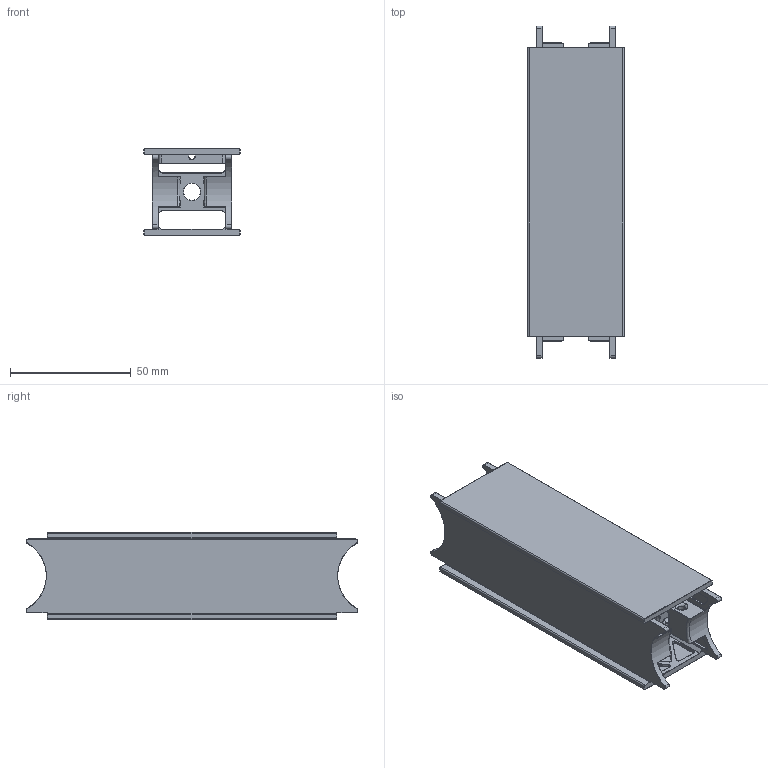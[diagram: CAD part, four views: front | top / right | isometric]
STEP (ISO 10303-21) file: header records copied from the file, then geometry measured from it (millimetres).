
FILE_DESCRIPTION (( 'STEP AP214' ), '1' );
FILE_NAME ('ACDISTSMXORXXXX.STEP', '2023-08-28T15:07:30', ( '' ), ( '' ), 'SwSTEP 2.0', 'SolidWorks 2023', '' );
FILE_SCHEMA (( 'AUTOMOTIVE_DESIGN' ));
Length unit declared in the file: millimetre
Products named in the file (3): WSCP2E0017-1400-01; WSCP2E0013-1400-03; ACDISTSMXORXXXX
Assembly tree (2 placements, depth 2):
  ACDISTSMXORXXXX
    WSCP2E0013-1400-03
    WSCP2E0017-1400-01
Bounding box: 40 x 137.71 x 36.1 mm (x, y, z)
Volume: 44722.6 mm3; surface area: 44009.6 mm2
Topology: 2 solids, 2 shells, 2039 faces, 4676 edges, 2636 vertices
Faces by surface type: cylinder 910, torus 720, plane 325, bspline 52, sphere 32
Entity records: 58358 total; most frequent: DIRECTION 11304, CARTESIAN_POINT 11160, ORIENTED_EDGE 9224, AXIS2_PLACEMENT_3D 4804, EDGE_CURVE 4612, CIRCLE 2812, VERTEX_POINT 2636, EDGE_LOOP 2122
